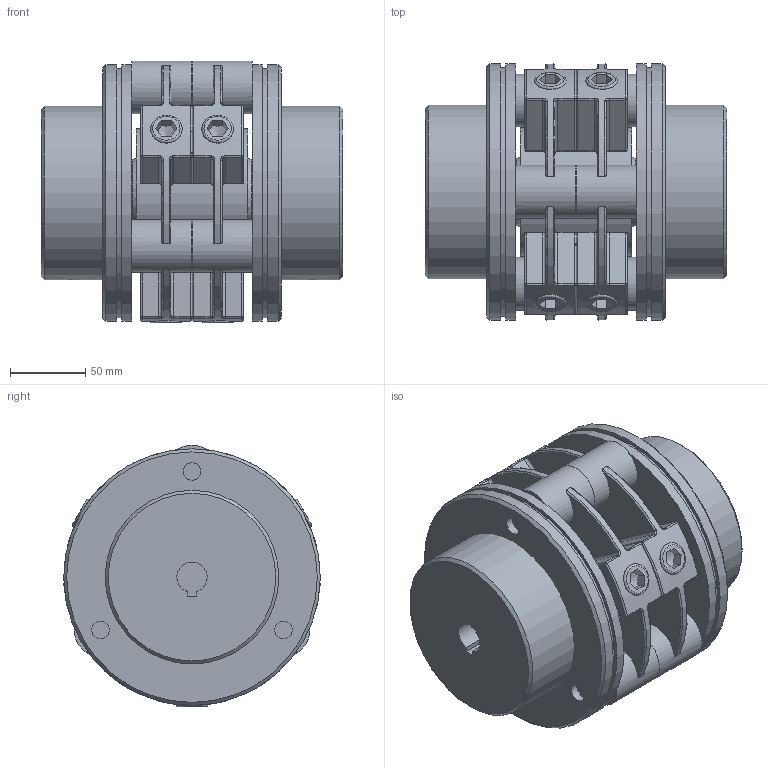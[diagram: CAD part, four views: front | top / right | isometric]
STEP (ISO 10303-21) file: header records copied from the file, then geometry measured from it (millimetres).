
FILE_DESCRIPTION(/* description */ (''),/* implementation_level */ '2;1');
FILE_NAME(/* name */ 'GXZ25-L90-20-PF-20-PF',/* time_stamp */ '2024-01-05T15:37:44+01:00',/* author */ ('M. Horlacher'),/* organization */ (''),/* preprocessor_version */ 'ST-DEVELOPER v20',/* originating_system */ 'Autodesk Inventor 2024',/* authorisation */ '');
FILE_SCHEMA (('AUTOMOTIVE_DESIGN { 1 0 10303 214 3 1 1 }'));
Length unit declared in the file: millimetre
Products named in the file (9): RP STEP; VE Rohr Dummy; GX25 Befestigungssatz ST; 080305-1413s; Größe 025; ISO 4762 - M14 x 40 - 8.8 - VZ A1A; GX25-Nabe; GX25-Nabe_1; 210409-0942b
Assembly tree (15 placements, depth 3):
  RP STEP
    VE Rohr Dummy
    GX25 Befestigungssatz ST  x2
      080305-1413s
      Größe 025
      ISO 4762 - M14 x 40 - 8.8 - VZ A1A
    GX25-Nabe
    GX25-Nabe_1
    210409-0942b  x2
Bounding box: 200 x 170 x 173.5 mm (x, y, z)
Volume: 2717216.8 mm3; surface area: 528986.6 mm2
Topology: 21 solids, 21 shells, 624 faces, 1522 edges, 916 vertices
Faces by surface type: plane 214, cylinder 196, torus 86, sphere 50, bspline 48, cone 30
Full cylindrical faces by diameter (mm): 8.376 x2, 11.835 x12, 14 x24, 15.5 x6, 21 x24, 35 x6, 50 x2, 80 x3, 85 x3, 115 x2, 165 x4, 170 x4
Entity records: 9302 total; most frequent: CARTESIAN_POINT 2865, DIRECTION 1322, ORIENTED_EDGE 1220, EDGE_CURVE 610, AXIS2_PLACEMENT_3D 559, VERTEX_POINT 376, EDGE_LOOP 320, CIRCLE 295
